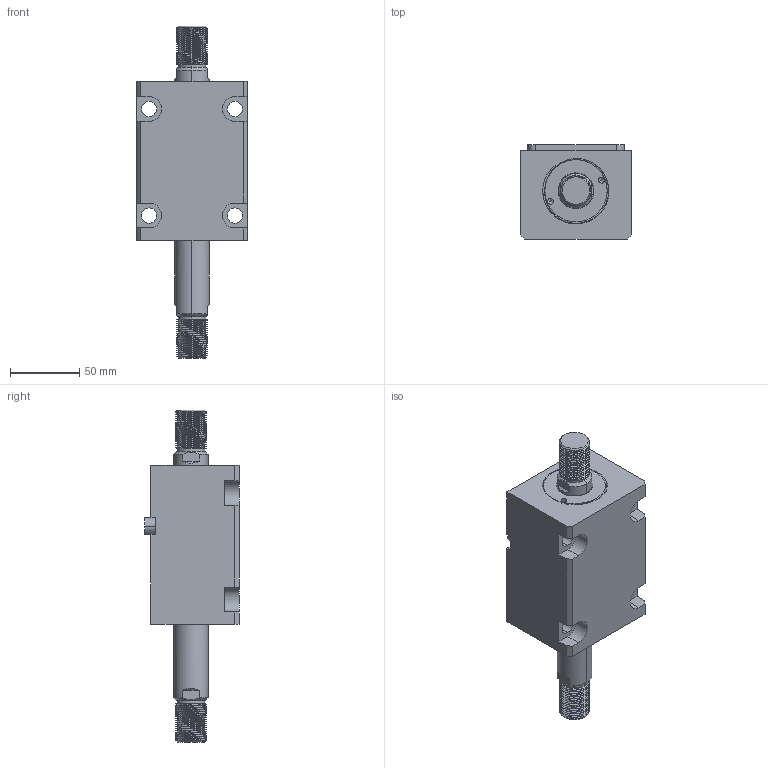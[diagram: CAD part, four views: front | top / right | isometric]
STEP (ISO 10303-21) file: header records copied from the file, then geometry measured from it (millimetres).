
FILE_DESCRIPTION (( 'STEP AP214' ), '1' );
FILE_NAME ('chtb-lwm40x45w_asm.STEP', '2018-05-31T00:42:25', ( 'Windows' ), ( 'Microsoft' ), 'SwSTEP 2.0', 'SolidWorks 2015', '' );
FILE_SCHEMA (( 'AUTOMOTIVE_DESIGN' ));
Length unit declared in the file: millimetre
Products named in the file (5): CHTB-SW40X45NHSG; CHTB-SD40QG; CHTB-LA40PJ; CHTB-LWM40X45NBT; chtb-lwm40x45w_asm
Assembly tree (4 placements, depth 2):
  chtb-lwm40x45w_asm
    CHTB-LWM40X45NBT
    CHTB-LA40PJ
    CHTB-SD40QG
    CHTB-SW40X45NHSG
Bounding box: 80 x 68.5 x 240 mm (x, y, z)
Volume: 573589.5 mm3; surface area: 102027.5 mm2
Topology: 4 solids, 4 shells, 252 faces, 699 edges, 465 vertices
Faces by surface type: cylinder 152, plane 57, bspline 18, cone 13, torus 12
Entity records: 17373 total; most frequent: CARTESIAN_POINT 11260, ORIENTED_EDGE 1386, DIRECTION 1092, EDGE_CURVE 693, VERTEX_POINT 465, AXIS2_PLACEMENT_3D 419, EDGE_LOOP 284, LINE 254
